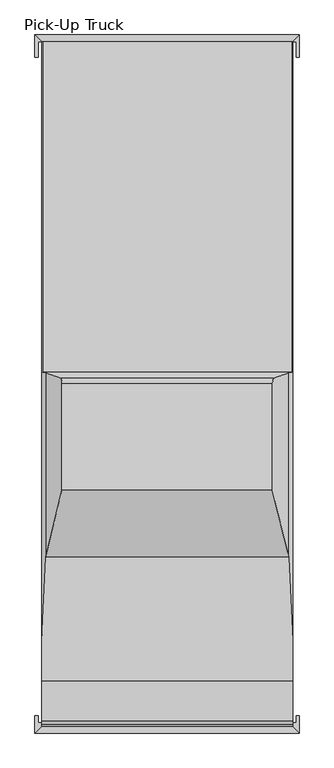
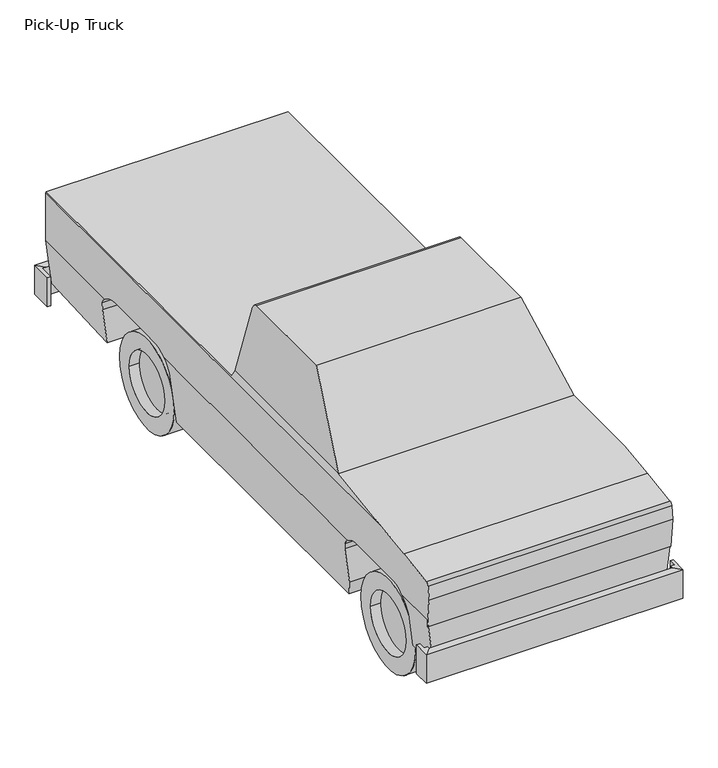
"""IFC4 building model written with IfcOpenShell, lengths in millimetres: proxy geometry, Camionette : Pick-Up Truck."""

from ifc_helpers import new_model, si_unit, point, frame, frame_2d, origin, place, context, project, spatial, polyline, circle_curve, ellipse_curve, trimmed, segment, composite_curve, outline, extrude, faceted_brep, source, transform, mapped, element, save
from ifc_brep_helpers import plane_surface, cylinder_surface, revolved_surface, advanced_brep


def pick_up_truck_a8637c89(model_context):
    return source(origin(), model_context, "Body", "SolidModel", [
        faceted_brep([(-932.9615385, 2903.0203063, 623.3577003), (-932.9615385, 2903.0203063, 394.7577003), (-907.5615385, 2903.0203063, 394.7577003), (-907.5615385, 2903.0203063, 623.3577003), (-932.9615385, 3066.5615385, 394.7577003), (-882.1615385, 3015.7615385, 394.7577003), (-907.5615385, 3015.7615385, 394.7577003), (-882.1615385, 3015.7615385, 623.3577003), (-932.9615385, 3066.5615385, 623.3577003), (-907.5615385, 3015.7615385, 623.3577003), (943.1251801, 3015.7615385, 394.7577003), (993.9251801, 3066.5615385, 394.7577003), (972.0384615, 3015.7615385, 394.7577003), (972.0384615, 3015.7615385, 623.3577003), (943.1251801, 3015.7615385, 623.3577003), (993.9251801, 3066.5615385, 623.3577003), (993.9251801, 2903.0203063, 394.7577003), (993.9251801, 2903.0203063, 623.3577003), (972.0384615, 2903.0203063, 623.3577003), (972.0384615, 2903.0203063, 394.7577003)], [[[0, 1, 2, 3]], [[1, 4, 5, 6, 2]], [[7, 8, 0, 3, 9]], [[1, 0, 8, 4]], [[10, 5, 4, 11]], [[10, 12, 13, 14, 7, 9, 6, 5]], [[8, 7, 14, 15]], [[4, 8, 15, 11]], [[16, 17, 18, 19]], [[10, 11, 16, 19, 12]], [[15, 14, 13, 18, 17]], [[11, 15, 17, 16]], [[6, 9, 3, 2]], [[13, 12, 19, 18]]]),
        faceted_brep([(-932.9615385, -1899.6194827, 394.7577003), (-932.9615385, -1899.6194827, 623.3577003), (-907.5615385, -1899.6194827, 623.3577003), (-907.5615385, -1899.6194827, 394.7577003), (-932.9615385, -2026.6194827, 394.7577003), (-932.9615385, -2026.6194827, 623.3577003), (-882.1615385, -1975.8194827, 623.3577003), (-882.1615385, -1951.924276, 623.3577003), (-907.5615385, -1951.924276, 623.3577003), (-882.1615385, -1975.8194827, 394.7577003), (-882.1615385, -1951.924276, 394.7577003), (-907.5615385, -1951.924276, 394.7577003), (993.9251801, -2026.6194827, 394.7577003), (993.9251801, -2026.6194827, 623.3577003), (943.1251801, -1975.8194827, 623.3577003), (943.1251801, -1975.8194827, 394.7577003), (993.9251801, -1899.6194827, 623.3577003), (993.9251801, -1899.6194827, 394.7577003), (972.0384615, -1899.6194827, 394.7577003), (972.0384615, -1899.6194827, 623.3577003), (972.0384615, -1951.924276, 623.3577003), (943.1251801, -1951.924276, 623.3577003), (943.1251801, -1951.924276, 394.7577003), (972.0384615, -1951.924276, 394.7577003)], [[[0, 1, 2, 3]], [[1, 0, 4, 5]], [[1, 5, 6, 7, 8, 2]], [[6, 9, 10, 7]], [[4, 0, 3, 11, 10, 9]], [[5, 4, 12, 13]], [[6, 5, 13, 14]], [[9, 6, 14, 15]], [[4, 9, 15, 12]], [[16, 17, 18, 19]], [[13, 12, 17, 16]], [[14, 13, 16, 19, 20, 21]], [[15, 14, 21, 22]], [[12, 15, 22, 23, 18, 17]], [[11, 8, 7, 10]], [[20, 23, 22, 21]], [[8, 11, 3, 2]], [[23, 20, 19, 18]]]),
        advanced_brep(
        [(-882.1615385, 2103.6156034, 888.7336798), (-882.1615385, 1697.2156034, 888.7336798), (-882.1615385, 1614.7015006, 885.1455636), (-882.1615385, 1473.5121228, 837.1131584), (-882.1615385, -912.9817492, 837.1131584), (-882.1615385, -1053.9517054, 878.8872426), (-882.1615385, -1474.8105853, 878.8872426), (-882.1615385, -1617.7834877, 837.1131584), (-882.1615385, -1951.924276, 837.1131584), (-882.1615385, -1951.924276, 779.2411665), (-882.1615385, -1975.8194827, 1006.5888718), (-882.1615385, -1963.4375574, 1107.4315608), (-882.1615385, -1939.9042038, 1130.9649145), (-882.1615385, -1644.5045632, 1173.526104), (-882.1615385, -1353.2454526, 1210.3079682), (-882.1615385, 3015.7615385, 1210.3079682), (-882.1615385, 3015.7615385, 837.1131584), (-882.1615385, 2243.9728923, 837.1131584), (946.6384615, -1644.5045632, 1173.526104), (946.6384615, -1939.9042038, 1130.9649145), (946.6384615, -1963.4375574, 1107.4315608), (946.6384615, -1975.8194827, 1006.5888718), (946.6384615, -1951.924276, 779.2411665), (946.6384615, -1951.924276, 837.1131584), (946.6384615, -1617.7834877, 837.1131584), (946.6384615, -1474.8105853, 878.8872426), (946.6384615, -1053.9517054, 878.8872426), (946.6384615, -912.9817492, 837.1131584), (946.6384615, 1473.5121228, 837.1131584), (946.6384615, 1614.7015006, 885.1455636), (946.6384615, 1697.2156034, 888.7336798), (946.6384615, 2103.6156034, 888.7336798), (946.6384615, 2243.9728923, 837.1131584), (946.6384615, 3015.7615385, 837.1131584), (946.6384615, 3015.7615385, 1210.3079682), (946.6384615, -1353.2454526, 1210.3079682), (-876.2843723, 3015.7615385, 1219.2), (940.7612953, 3015.7615385, 1219.2), (902.1686195, 3015.7615385, 480.544728), (-837.6916964, 3015.7615385, 480.544728), (897.0369558, 2300.369269, 439.3979826), (-832.5600327, 2300.369269, 439.3979826), (930.9047354, 2300.369269, 710.9568741), (-866.4278123, 2300.369269, 710.9568741), (939.4838124, 2288.2399438, 779.7456957), (-875.0068893, 2288.2399438, 779.7456957), (944.2646239, 1453.4521306, 818.079235), (-879.7877008, 1453.4521306, 818.079235), (935.7642918, 1419.378607, 749.921807), (-871.2873687, 1419.378607, 749.921807), (884.1769157, 1419.378607, 336.2835102), (-819.6999926, 1419.378607, 336.2835102), (884.1769157, -823.559725, 336.2835102), (-819.6999926, -823.559725, 336.2835102), (898.6478484, -854.6501227, 452.314454), (-834.1709253, -854.6501227, 452.314454), (933.4935408, -854.6501227, 731.714454), (-869.0166178, -854.6501227, 731.714454), (939.6132416, -867.7981302, 780.783486), (-875.1363185, -867.7981302, 780.783486), (930.9350571, -1682.962287, 711.2), (-866.458134, -1682.962287, 711.2), (899.0315641, -1682.962287, 455.3911665), (-834.554641, -1682.962287, 455.3911665), (899.0315641, -1951.924276, 455.3911665), (-834.554641, -1951.924276, 455.3911665), (939.4208895, -1951.924276, 779.2411665), (-874.9439664, -1951.924276, 779.2411665), (917.6799973, -743.8423581, 1254.1215299), (-853.2030742, -743.8423581, 1254.1215299), (800.2028589, -255.2503888, 1778.0), (-735.7259358, -255.2503888, 1778.0), (800.2028589, 522.1190782, 1778.0), (-735.7259358, 522.1190782, 1778.0), (-743.5250355, 560.0740962, 1743.2206338), (808.0019586, 560.0740962, 1743.2206338), (917.6799973, 602.8647232, 1254.1215299), (940.7612953, 605.9199612, 1219.2), (-876.2843723, 605.9199612, 1219.2), (-853.2030742, 602.8647232, 1254.1215299)],
        [
            (0, 1),
            (1, 2),
            (2, 3, circle_curve(frame((-882.1615385, 1606.9552598, 676.3888042), z_axis=(1.0, 0.0, 0.0), x_axis=(0.0, -1.0, 0.0)), 208.900428)),
            (3, 4),
            (4, 5, circle_curve(frame((-882.1615385, -1031.5575926, 695.7137663), z_axis=(1.0, 0.0, 0.0), x_axis=(0.0, -1.0, 0.0)), 184.5373098)),
            (5, 6),
            (6, 7, circle_curve(frame((-882.1615385, -1498.8876828, 695.7404401), z_axis=(1.0, 0.0, 0.0), x_axis=(0.0, -1.0, 0.0)), 184.7226513)),
            (7, 8),
            (8, 9),
            (9, 10),
            (10, 11),
            (11, 12, circle_curve(frame((-882.1615385, -1939.9042038, 1107.4315608), z_axis=(-1.0, 0.0, 0.0), x_axis=(0.0, -1.0, 0.0)), 23.5333537)),
            (12, 13),
            (13, 14, circle_curve(frame((-882.1615385, -446.5414344, -7141.0412638), z_axis=(-1.0, 0.0, 0.0), x_axis=(0.0, -1.0, 0.0)), 8400.4253566)),
            (14, 15),
            (15, 16),
            (16, 17),
            (17, 0, circle_curve(frame((-882.1615385, 2109.2327636, 687.3793785), z_axis=(1.0, 0.0, 0.0), x_axis=(0.0, -1.0, 0.0)), 201.4326367)),
            (18, 19),
            (19, 20, circle_curve(frame((946.6384615, -1939.9042038, 1107.4315608), z_axis=(1.0, 0.0, 0.0), x_axis=(0.0, -1.0, 0.0)), 23.5333537)),
            (20, 21),
            (21, 22),
            (22, 23),
            (23, 24),
            (24, 25, circle_curve(frame((946.6384615, -1498.8876828, 695.7404401), z_axis=(-1.0, 0.0, 0.0), x_axis=(0.0, -1.0, 0.0)), 184.7226513)),
            (25, 26),
            (26, 27, circle_curve(frame((946.6384615, -1031.5575926, 695.7137663), z_axis=(-1.0, 0.0, 0.0), x_axis=(0.0, -1.0, 0.0)), 184.5373098)),
            (27, 28),
            (28, 29, circle_curve(frame((946.6384615, 1606.9552598, 676.3888042), z_axis=(-1.0, 0.0, 0.0), x_axis=(0.0, -1.0, 0.0)), 208.900428)),
            (29, 30),
            (30, 31),
            (31, 32, circle_curve(frame((946.6384615, 2109.2327636, 687.3793785), z_axis=(-1.0, 0.0, 0.0), x_axis=(0.0, -1.0, 0.0)), 201.4326367)),
            (32, 33),
            (33, 34),
            (34, 35),
            (35, 18, circle_curve(frame((946.6384615, -446.5414344, -7141.0412638), z_axis=(1.0, 0.0, 0.0), x_axis=(0.0, -1.0, 0.0)), 8400.4253566)),
            (15, 36),
            (36, 37),
            (37, 34),
            (33, 38),
            (38, 39),
            (39, 16),
            (38, 40),
            (40, 41),
            (41, 39),
            (40, 42),
            (42, 43),
            (43, 41),
            (42, 44),
            (44, 45),
            (45, 43),
            (31, 0),
            (17, 45, ellipse_curve(frame((-863.4873178, 2109.2327636, 687.3793785), z_axis=(-0.9923125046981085, 0.0, -0.12375739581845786), x_axis=(0.12375739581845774, 0.0, -0.9923125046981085)), 202.9931455, 201.4326367)),
            (44, 32, ellipse_curve(frame((927.9642409, 2109.2327636, 687.3793785), z_axis=(0.992312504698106, 0.0, -0.12375739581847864), x_axis=(0.12375739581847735, 0.0, 0.9923125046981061)), 202.9931455, 201.4326367)),
            (30, 1),
            (29, 2),
            (28, 46, ellipse_curve(frame((926.5935388, 1606.9552598, 676.3888042), z_axis=(0.992312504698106, 0.0, -0.12375739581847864), x_axis=(0.12375739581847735, 0.0, 0.9923125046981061)), 210.5187902, 208.900428)),
            (46, 47),
            (47, 3, ellipse_curve(frame((-862.1166157, 1606.9552598, 676.3888042), z_axis=(-0.9923125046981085, 0.0, -0.12375739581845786), x_axis=(0.12375739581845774, 0.0, -0.9923125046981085)), 210.5187902, 208.900428)),
            (46, 48),
            (48, 49),
            (49, 47),
            (48, 50),
            (50, 51),
            (51, 49),
            (50, 52),
            (52, 53),
            (53, 51),
            (52, 54),
            (54, 55),
            (55, 53),
            (54, 56),
            (56, 57),
            (57, 55),
            (56, 58),
            (58, 59),
            (59, 57),
            (26, 5),
            (4, 59, ellipse_curve(frame((-864.5267506, -1031.5575926, 695.7137663), z_axis=(-0.9923125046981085, 0.0, -0.12375739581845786), x_axis=(0.12375739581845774, 0.0, -0.9923125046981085)), 185.9669297, 184.5373098)),
            (58, 27, ellipse_curve(frame((929.0036737, -1031.5575926, 695.7137663), z_axis=(0.992312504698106, 0.0, -0.12375739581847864), x_axis=(0.12375739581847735, 0.0, 0.9923125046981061)), 185.9669297, 184.5373098)),
            (25, 6),
            (24, 60, ellipse_curve(frame((929.0070003, -1498.8876828, 695.7404401), z_axis=(0.992312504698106, 0.0, -0.12375739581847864), x_axis=(0.12375739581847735, 0.0, 0.9923125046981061)), 186.153707, 184.7226513)),
            (60, 61),
            (61, 7, ellipse_curve(frame((-864.5300772, -1498.8876828, 695.7404401), z_axis=(-0.9923125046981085, 0.0, -0.12375739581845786), x_axis=(0.12375739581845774, 0.0, -0.9923125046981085)), 186.153707, 184.7226513)),
            (60, 62),
            (62, 63),
            (63, 61),
            (62, 64),
            (64, 65),
            (65, 63),
            (64, 66),
            (66, 67),
            (67, 65),
            (9, 67),
            (66, 22),
            (21, 10),
            (20, 11),
            (19, 12),
            (18, 13),
            (35, 68, ellipse_curve(frame((6466.4418903, -446.5414344, -7141.0412638), z_axis=(-0.8342458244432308, 0.0, -0.5513926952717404), x_axis=(-0.55139269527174, 0.0, 0.8342458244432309)), 10069.4844499, 8400.4253566)),
            (68, 69),
            (69, 14, ellipse_curve(frame((-6401.9649673, -446.5414344, -7141.0412638), z_axis=(0.8342458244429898, 0.0, -0.5513926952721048), x_axis=(-0.5513926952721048, 0.0, -0.8342458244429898)), 10069.4844499, 8400.4253566)),
            (68, 70),
            (70, 71),
            (71, 69),
            (70, 72),
            (72, 73),
            (73, 71),
            (74, 75),
            (75, 76),
            (76, 77),
            (77, 78),
            (78, 79),
            (79, 74),
            (36, 78),
            (77, 37),
            (8, 67),
            (66, 23),
            (69, 79),
            (73, 74, ellipse_curve(frame((-744.2696711, 522.1190782, 1739.9), z_axis=(-0.9757672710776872, 0.0, 0.21881095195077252), x_axis=(-0.21881095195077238, 0.0, -0.9757672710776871)), 39.0461959, 38.1)),
            (68, 76),
            (75, 72, ellipse_curve(frame((808.7465942, 522.1190782, 1739.9), z_axis=(0.9757672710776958, 0.0, 0.2188109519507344), x_axis=(-0.21881095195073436, 0.0, 0.9757672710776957)), 39.0461959, 38.1)),
        ],
        [
            plane_surface(frame((-882.1615385, 3015.7615385, 480.544728), z_axis=(-1.0, 0.0, 0.0), x_axis=(0.0, 0.0, -1.0))),
            plane_surface(frame((946.6384615, 3015.7615385, 480.544728), z_axis=(1.0, 0.0, 0.0), x_axis=(0.0, 0.0, 1.0))),
            plane_surface(frame((-882.1615385, 3015.7615385, 1219.2), z_axis=(0.0, 1.0, 0.0), x_axis=(1.0, 0.0, 0.0))),
            plane_surface(frame((-882.1615385, 3015.7615385, 480.544728), z_axis=(0.0, 0.05742144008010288, -0.9983500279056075), x_axis=(1.0, 0.0, 0.0))),
            plane_surface(frame((-882.1615385, 2300.369269, 439.3979826), z_axis=(0.0, -1.0, 0.0), x_axis=(1.0, 0.0, 0.0))),
            plane_surface(frame((-882.1615385, 2300.369269, 710.9568741), z_axis=(0.0, -0.9848077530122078, -0.17364817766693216), x_axis=(1.0, 0.0, 0.0))),
            revolved_surface(polyline([(953.0861439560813, 1907.8001269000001, 687.3793785), (-888.6092208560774, 1907.8001269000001, 687.3793785)]), (946.6384615, 2109.2327636, 687.3793785), (1.0, 0.0, 0.0)),
            plane_surface(frame((-882.1615385, 2103.6156034, 888.7336798), z_axis=(0.0, 0.0, -1.0), x_axis=(1.0, 0.0, 0.0))),
            plane_surface(frame((-882.1615385, 1697.2156034, 888.7336798), z_axis=(0.0, 0.04344382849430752, -0.9990558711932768), x_axis=(1.0, 0.0, 0.0))),
            revolved_surface(polyline([(952.6467960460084, 1398.0548318, 676.3888042), (-888.1698729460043, 1398.0548318, 676.3888042)]), (946.6384615, 1606.9552598, 676.3888042), (1.0, 0.0, 0.0)),
            plane_surface(frame((-882.1615385, 1453.4521306, 818.079235), z_axis=(0.0, 0.8944544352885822, -0.44715910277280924), x_axis=(1.0, 0.0, 0.0))),
            plane_surface(frame((-882.1615385, 1419.378607, 749.921807), z_axis=(0.0, 1.0, 0.0), x_axis=(1.0, 0.0, 0.0))),
            plane_surface(frame((-882.1615385, 1419.378607, 336.2835102), z_axis=(0.0, 0.0, -1.0), x_axis=(1.0, 0.0, 0.0))),
            plane_surface(frame((-882.1615385, -823.559725, 336.2835102), z_axis=(0.0, -0.965925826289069, -0.2588190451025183), x_axis=(1.0, 0.0, 0.0))),
            plane_surface(frame((-882.1615385, -854.6501227, 452.314454), z_axis=(0.0, -1.0, 0.0), x_axis=(1.0, 0.0, 0.0))),
            plane_surface(frame((-882.1615385, -854.6501227, 731.714454), z_axis=(0.0, -0.9659258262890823, -0.25881904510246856), x_axis=(1.0, 0.0, 0.0))),
            revolved_surface(polyline([(952.0184566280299, -1216.0949024, 695.7137663), (-887.5415335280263, -1216.0949024, 695.7137663)]), (946.6384615, -1031.5575926, 695.7137663), (1.0, 0.0, 0.0)),
            plane_surface(frame((-882.1615385, -1053.9517054, 878.8872426), z_axis=(0.0, 0.0, -1.0), x_axis=(1.0, 0.0, 0.0))),
            revolved_surface(polyline([(952.0448983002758, -1683.6103341, 695.7404401), (-887.5679752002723, -1683.6103341, 695.7404401)]), (946.6384615, -1498.8876828, 695.7404401), (1.0, 0.0, 0.0)),
            plane_surface(frame((-882.1615385, -1682.962287, 711.2), z_axis=(0.0, 1.0, 0.0), x_axis=(1.0, 0.0, 0.0))),
            plane_surface(frame((-882.1615385, -1682.962287, 455.3911665), z_axis=(0.0, 0.0, -1.0), x_axis=(1.0, 0.0, 0.0))),
            plane_surface(frame((-882.1615385, -1951.924276, 455.3911665), z_axis=(0.0, -1.0, 0.0), x_axis=(1.0, 0.0, 0.0))),
            plane_surface(frame((-882.1615385, -1951.924276, 779.2411665), z_axis=(0.0, -0.9945218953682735, -0.10452846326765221), x_axis=(1.0, 0.0, 0.0))),
            plane_surface(frame((-882.1615385, -1975.8194827, 1006.5888718), z_axis=(0.0, -0.9925461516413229, 0.1218693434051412), x_axis=(1.0, 0.0, 0.0))),
            cylinder_surface(frame((946.6384615, -1939.9042038, 1107.4315608), z_axis=(-1.0, 0.0, 0.0), x_axis=(0.0, -1.0, 0.0)), 23.5333537),
            plane_surface(frame((-882.1615385, -1939.9042038, 1130.9649145), z_axis=(0.0, -0.1426074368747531, 0.9897793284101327), x_axis=(1.0, 0.0, 0.0))),
            cylinder_surface(frame((946.6384615, -446.5414344, -7141.0412638), z_axis=(-1.0, 0.0, 0.0), x_axis=(0.0, -1.0, 0.0)), 8400.4253566),
            plane_surface(frame((-882.1615385, -743.8423581, 1254.1215299), z_axis=(0.0, -0.7313067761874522, 0.6820486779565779), x_axis=(1.0, 0.0, 0.0))),
            plane_surface(frame((-882.1615385, -255.2503888, 1778.0), z_axis=(0.0, 0.0, 1.0), x_axis=(1.0, 0.0, 0.0))),
            plane_surface(frame((-882.1615385, 560.0740962, 1743.2206338), z_axis=(0.0, 0.9961946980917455, 0.08715574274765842), x_axis=(1.0, 0.0, 0.0))),
            plane_surface(frame((-882.1615385, 605.9199612, 1219.2), z_axis=(0.0, 0.0, 1.0), x_axis=(1.0, 0.0, 0.0))),
            plane_surface(frame((-730.4934031, -1951.924276, 305.3311322), z_axis=(0.0, 1.0, 0.0), x_axis=(1.0, 0.0, 0.0))),
            plane_surface(frame((-815.8397312, -1951.924276, 305.3311322), z_axis=(-0.9923125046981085, 0.0, -0.12375739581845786), x_axis=(0.0, 1.0, 0.0))),
            plane_surface(frame((-884.2900076, -1951.924276, 1207.0876381), z_axis=(-0.8342458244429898, 0.0, 0.5513926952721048), x_axis=(0.0, 1.0, 0.0))),
            plane_surface(frame((-853.2030742, -1951.924276, 1254.1215299), z_axis=(-0.9757672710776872, 0.0, 0.21881095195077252), x_axis=(0.0, 1.0, 0.0))),
            plane_surface(frame((800.2028589, -1951.924276, 1778.0), z_axis=(0.9757672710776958, 0.0, 0.2188109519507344), x_axis=(0.0, 1.0, 0.0))),
            plane_surface(frame((917.6799973, -1951.924276, 1254.1215299), z_axis=(0.8342458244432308, 0.0, 0.5513926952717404), x_axis=(0.0, 1.0, 0.0))),
            plane_surface(frame((948.7669307, -1951.924276, 854.1796662), z_axis=(0.992312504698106, 0.0, -0.12375739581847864), x_axis=(0.0, 1.0, 0.0))),
            cylinder_surface(frame((946.6384615, 522.1190782, 1739.9), z_axis=(-1.0, 0.0, 0.0), x_axis=(0.0, -1.0, 0.0)), 38.1),
        ],
        [
            (0, [[1, 2, 3, 4, 5, 6, 7, 8, 9, 10, 11, 12, 13, 14, 15, 16, 17, 18]]),
            (1, [[19, 20, 21, 22, 23, 24, 25, 26, 27, 28, 29, 30, 31, 32, 33, 34, 35, 36]]),
            (2, [[-16, 37, 38, 39, -34, 40, 41, 42]]),
            (3, [[-41, 43, 44, 45]]),
            (4, [[-44, 46, 47, 48]]),
            (5, [[-47, 49, 50, 51]]),
            (6, [[52, -18, 53, -50, 54, -32]]),
            (7, [[-1, -52, -31, 55]]),
            (8, [[-2, -55, -30, 56]]),
            (9, [[-56, -29, 57, 58, 59, -3]]),
            (10, [[-58, 60, 61, 62]]),
            (11, [[-61, 63, 64, 65]]),
            (12, [[-64, 66, 67, 68]]),
            (13, [[-67, 69, 70, 71]]),
            (14, [[-70, 72, 73, 74]]),
            (15, [[-73, 75, 76, 77]]),
            (16, [[78, -5, 79, -76, 80, -27]]),
            (17, [[-6, -78, -26, 81]]),
            (18, [[-81, -25, 82, 83, 84, -7]]),
            (19, [[-83, 85, 86, 87]]),
            (20, [[-86, 88, 89, 90]]),
            (21, [[-89, 91, 92, 93]]),
            (22, [[-10, 94, -92, 95, -22, 96]]),
            (23, [[-11, -96, -21, 97]]),
            (24, [[-12, -97, -20, 98]]),
            (25, [[-13, -98, -19, 99]]),
            (26, [[-99, -36, 100, 101, 102, -14]]),
            (27, [[-101, 103, 104, 105]]),
            (28, [[-104, 106, 107, 108]]),
            (29, [[109, 110, 111, 112, 113, 114]]),
            (30, [[-38, 115, -112, 116]]),
            (31, [[117, -94, -9]]),
            (31, [[118, -23, -95]]),
            (32, [[-4, -59, -62, -65, -68, -71, -74, -77, -79]]),
            (32, [[-17, -42, -45, -48, -51, -53]]),
            (32, [[-117, -8, -84, -87, -90, -93]]),
            (33, [[119, -113, -115, -37, -15, -102]]),
            (34, [[-119, -105, -108, 120, -114]]),
            (35, [[121, -110, 122, -106, -103]]),
            (36, [[-121, -100, -35, -39, -116, -111]]),
            (37, [[-28, -80, -75, -72, -69, -66, -63, -60, -57]]),
            (37, [[-33, -54, -49, -46, -43, -40]]),
            (37, [[-118, -91, -88, -85, -82, -24]]),
            (38, [[-107, -122, -109, -120]]),
        ],
    ),
        extrude(outline(composite_curve([segment(trimmed(circle_curve(frame_2d((1872.7733891, 355.6)), 228.6), [point((1644.1733891, 355.6))], [point((2101.3733891, 355.6))], False, "CARTESIAN"), True, "CONTINUOUS"), segment(trimmed(circle_curve(frame_2d((1872.7733891, 355.6)), 228.6), [point((2101.3733891, 355.6))], [point((1644.1733891, 355.6))], False, "CARTESIAN"), True, "CONTINUOUS")], self_intersect=False)), frame((641.7586115, 0.0, 0.0), z_axis=(1.0, 0.0, 0.0), x_axis=(0.0, 1.0, 0.0)), (0.0, 0.0, 1.0), 127.8117146),
        extrude(outline(composite_curve([segment(trimmed(circle_curve(frame_2d((-1267.5375629, 355.6)), 228.6), [point((-1496.1375629, 355.6))], [point((-1038.9375629, 355.6))], False, "CARTESIAN"), True, "CONTINUOUS"), segment(trimmed(circle_curve(frame_2d((-1267.5375629, 355.6)), 228.6), [point((-1038.9375629, 355.6))], [point((-1496.1375629, 355.6))], False, "CARTESIAN"), True, "CONTINUOUS")], self_intersect=False)), frame((641.7586115, 0.0, 0.0), z_axis=(1.0, 0.0, 0.0), x_axis=(0.0, 1.0, 0.0)), (0.0, 0.0, 1.0), 127.8117146),
        extrude(outline(composite_curve([segment(trimmed(circle_curve(frame_2d((1872.7733891, 355.6)), 355.6), [point((1517.1733891, 355.6))], [point((2228.3733891, 355.6))], False, "CARTESIAN"), True, "CONTINUOUS"), segment(trimmed(circle_curve(frame_2d((1872.7733891, 355.6)), 355.6), [point((2228.3733891, 355.6))], [point((1517.1733891, 355.6))], False, "CARTESIAN"), True, "CONTINUOUS")], self_intersect=False), holes=[composite_curve([segment(trimmed(circle_curve(frame_2d((1872.7733891, 355.6)), 228.6), [point((2101.3733891, 355.6))], [point((1644.1733891, 355.6))], True, "CARTESIAN"), True, "CONTINUOUS"), segment(trimmed(circle_curve(frame_2d((1872.7733891, 355.6)), 228.6), [point((1644.1733891, 355.6))], [point((2101.3733891, 355.6))], True, "CARTESIAN"), True, "CONTINUOUS")], self_intersect=False)]), frame((641.8384615, 0.0, 0.0), z_axis=(1.0, 0.0, 0.0), x_axis=(0.0, 1.0, 0.0)), (0.0, 0.0, 1.0), 203.2),
        extrude(outline(composite_curve([segment(trimmed(circle_curve(frame_2d((-1267.5375629, 355.6)), 355.6), [point((-911.9375629, 355.6))], [point((-1623.1375629, 355.6))], False, "CARTESIAN"), True, "CONTINUOUS"), segment(trimmed(circle_curve(frame_2d((-1267.5375629, 355.6)), 355.6), [point((-1623.1375629, 355.6))], [point((-911.9375629, 355.6))], False, "CARTESIAN"), True, "CONTINUOUS")], self_intersect=False), holes=[composite_curve([segment(trimmed(circle_curve(frame_2d((-1267.5375629, 355.6)), 228.6), [point((-1038.9375629, 355.6))], [point((-1496.1375629, 355.6))], True, "CARTESIAN"), True, "CONTINUOUS"), segment(trimmed(circle_curve(frame_2d((-1267.5375629, 355.6)), 228.6), [point((-1496.1375629, 355.6))], [point((-1038.9375629, 355.6))], True, "CARTESIAN"), True, "CONTINUOUS")], self_intersect=False)]), frame((641.8384615, 0.0, 0.0), z_axis=(1.0, 0.0, 0.0), x_axis=(0.0, 1.0, 0.0)), (0.0, 0.0, 1.0), 203.2),
        extrude(outline(composite_curve([segment(trimmed(circle_curve(frame_2d((1872.7733891, 355.6)), 228.6), [point((1644.1733891, 355.6))], [point((2101.3733891, 355.6))], False, "CARTESIAN"), True, "CONTINUOUS"), segment(trimmed(circle_curve(frame_2d((1872.7733891, 355.6)), 228.6), [point((2101.3733891, 355.6))], [point((1644.1733891, 355.6))], False, "CARTESIAN"), True, "CONTINUOUS")], self_intersect=False)), frame((-705.0934031, 0.0, 0.0), z_axis=(1.0, 0.0, 0.0), x_axis=(0.0, 1.0, 0.0)), (0.0, 0.0, 1.0), 127.8117146),
        extrude(outline(composite_curve([segment(trimmed(circle_curve(frame_2d((-1267.5375629, 355.6)), 228.6), [point((-1496.1375629, 355.6))], [point((-1038.9375629, 355.6))], False, "CARTESIAN"), True, "CONTINUOUS"), segment(trimmed(circle_curve(frame_2d((-1267.5375629, 355.6)), 228.6), [point((-1038.9375629, 355.6))], [point((-1496.1375629, 355.6))], False, "CARTESIAN"), True, "CONTINUOUS")], self_intersect=False)), frame((-705.0934031, 0.0, 0.0), z_axis=(1.0, 0.0, 0.0), x_axis=(0.0, 1.0, 0.0)), (0.0, 0.0, 1.0), 127.8117146),
        extrude(outline(composite_curve([segment(polyline([(2300.369269, 456.9336798), (1419.378607, 456.9336798), (1419.378607, 749.921807), (1453.4521306, 818.079235)]), True, "CONTINUOUS"), segment(trimmed(circle_curve(frame_2d((1606.9552598, 676.3888042)), 208.900428), [point((1453.4521306, 818.079235))], [point((1614.7015006, 885.1455636))], False, "CARTESIAN"), True, "CONTINUOUS"), segment(polyline([(1614.7015006, 885.1455636), (1697.2156034, 888.7336798), (2103.6156034, 888.7336798)]), True, "CONTINUOUS"), segment(trimmed(circle_curve(frame_2d((2109.2327636, 687.3793785)), 201.4326367), [point((2103.6156034, 888.7336798))], [point((2288.2399438, 779.7456957))], False, "CARTESIAN"), True, "CONTINUOUS"), segment(polyline([(2288.2399438, 779.7456957), (2300.369269, 710.9568741), (2300.369269, 456.9336798)]), True, "CONTINUOUS")], self_intersect=False)), frame((520.2761241, 0.0, 0.0), z_axis=(1.0, 0.0, 0.0), x_axis=(0.0, 1.0, 0.0)), (0.0, 0.0, 1.0), 35.321875),
        extrude(outline(composite_curve([segment(polyline([(2300.369269, 456.9336798), (1419.378607, 456.9336798), (1419.378607, 749.921807), (1453.4521306, 818.079235)]), True, "CONTINUOUS"), segment(trimmed(circle_curve(frame_2d((1606.9552598, 676.3888042)), 208.900428), [point((1453.4521306, 818.079235))], [point((1614.7015006, 885.1455636))], False, "CARTESIAN"), True, "CONTINUOUS"), segment(polyline([(1614.7015006, 885.1455636), (1697.2156034, 888.7336798), (2103.6156034, 888.7336798)]), True, "CONTINUOUS"), segment(trimmed(circle_curve(frame_2d((2109.2327636, 687.3793785)), 201.4326367), [point((2103.6156034, 888.7336798))], [point((2288.2399438, 779.7456957))], False, "CARTESIAN"), True, "CONTINUOUS"), segment(polyline([(2288.2399438, 779.7456957), (2300.369269, 710.9568741), (2300.369269, 456.9336798)]), True, "CONTINUOUS")], self_intersect=False)), frame((-484.8485994, 0.0, 0.0), z_axis=(1.0, 0.0, 0.0), x_axis=(0.0, 1.0, 0.0)), (0.0, 0.0, 1.0), 47.0684735),
        extrude(outline(polyline([(520.2761241, 2300.369269), (520.2761241, 1419.378607), (-437.7696481, 1419.378607), (-437.7696481, 2300.369269), (520.2761241, 2300.369269)])), frame((0.0, 0.0, 595.9078125), z_axis=(0.0, 0.0, 1.0), x_axis=(1.0, 0.0, 0.0)), (0.0, 0.0, 1.0), 27.7189478),
        extrude(outline(composite_curve([segment(trimmed(circle_curve(frame_2d((1872.7733891, 355.6)), 355.6), [point((1517.1733891, 355.6))], [point((2228.3733891, 355.6))], False, "CARTESIAN"), True, "CONTINUOUS"), segment(trimmed(circle_curve(frame_2d((1872.7733891, 355.6)), 355.6), [point((2228.3733891, 355.6))], [point((1517.1733891, 355.6))], False, "CARTESIAN"), True, "CONTINUOUS")], self_intersect=False), holes=[composite_curve([segment(trimmed(circle_curve(frame_2d((1872.7733891, 355.6)), 228.6), [point((2101.3733891, 355.6))], [point((1644.1733891, 355.6))], True, "CARTESIAN"), True, "CONTINUOUS"), segment(trimmed(circle_curve(frame_2d((1872.7733891, 355.6)), 228.6), [point((1644.1733891, 355.6))], [point((2101.3733891, 355.6))], True, "CARTESIAN"), True, "CONTINUOUS")], self_intersect=False)]), frame((-780.5615385, 0.0, 0.0), z_axis=(1.0, 0.0, 0.0), x_axis=(0.0, 1.0, 0.0)), (0.0, 0.0, 1.0), 203.2),
        extrude(outline(composite_curve([segment(trimmed(circle_curve(frame_2d((-1267.5375629, 355.6)), 355.6), [point((-911.9375629, 355.6))], [point((-1623.1375629, 355.6))], False, "CARTESIAN"), True, "CONTINUOUS"), segment(trimmed(circle_curve(frame_2d((-1267.5375629, 355.6)), 355.6), [point((-1623.1375629, 355.6))], [point((-911.9375629, 355.6))], False, "CARTESIAN"), True, "CONTINUOUS")], self_intersect=False), holes=[composite_curve([segment(trimmed(circle_curve(frame_2d((-1267.5375629, 355.6)), 228.6), [point((-1038.9375629, 355.6))], [point((-1496.1375629, 355.6))], True, "CARTESIAN"), True, "CONTINUOUS"), segment(trimmed(circle_curve(frame_2d((-1267.5375629, 355.6)), 228.6), [point((-1496.1375629, 355.6))], [point((-1038.9375629, 355.6))], True, "CARTESIAN"), True, "CONTINUOUS")], self_intersect=False)]), frame((-780.5615385, 0.0, 0.0), z_axis=(1.0, 0.0, 0.0), x_axis=(0.0, 1.0, 0.0)), (0.0, 0.0, 1.0), 203.2),
    ])


if __name__ == "__main__":
    model = new_model("IFC4")
    model_context = context("Model", 3, world=origin())
    ifc_project = project(units=[si_unit("LENGTHUNIT", "METRE", prefix="MILLI")], contexts=[model_context])
    site = spatial("IfcSite", under=ifc_project)
    building = spatial("IfcBuilding", under=site)
    placement = place(None, origin())
    pick_up_truck_shape = pick_up_truck_a8637c89(model_context)
    element("IfcBuildingElementProxy", 1, Name="Camionette : Pick-Up Truck", ObjectType="Camionette : Pick-Up Truck", at=placement, inside=building, context=model_context, shape_type="MappedRepresentation", body=[
        mapped(pick_up_truck_shape, transform((0.0, 0.0, 0.0), x_axis=(1.0, 0.0, 0.0), y_axis=(0.0, 1.0, 0.0), z_axis=(0.0, 0.0, 1.0))),
    ])
    save(model, "model.ifc")
